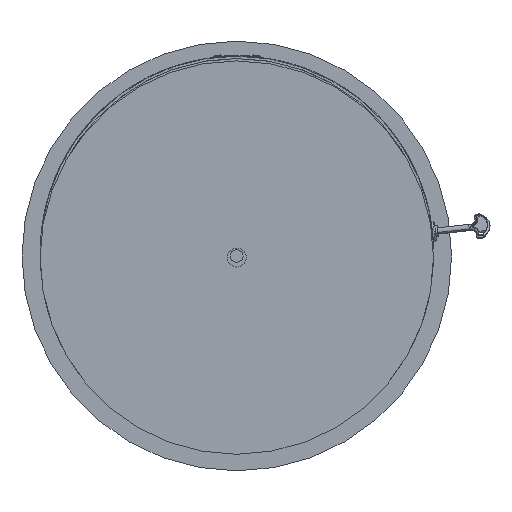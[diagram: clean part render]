
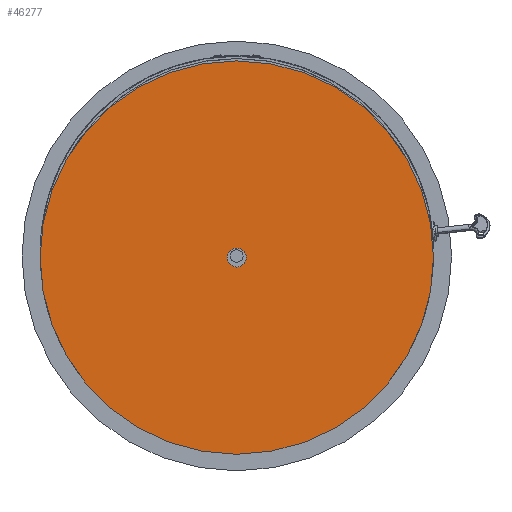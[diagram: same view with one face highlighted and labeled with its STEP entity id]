
A CAD part, front view. The second image highlights one B-rep face of the part: STEP entity #46277.
In plain terms, the highlighted planar face has unit normal (0, -1, 0).
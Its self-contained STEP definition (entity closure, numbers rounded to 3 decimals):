
#614 = EDGE_CURVE ( 'NONE', #169072, #73008, #61596, .T. ) ;
#3027 = CARTESIAN_POINT ( 'NONE',  ( 0., 0., 0. ) ) ;
#10148 = EDGE_CURVE ( 'NONE', #68189, #10973, #28174, .T. ) ;
#10250 = ORIENTED_EDGE ( 'NONE', *, *, #614, .F. ) ;
#10973 = VERTEX_POINT ( 'NONE', #20992 ) ;
#11401 = CARTESIAN_POINT ( 'NONE',  ( 0., 0., 0. ) ) ;
#13307 = DIRECTION ( 'NONE',  ( 0., -1., 0. ) ) ;
#16645 = DIRECTION ( 'NONE',  ( 0., 0., 1. ) ) ;
#20992 = CARTESIAN_POINT ( 'NONE',  ( 0., 0., -12. ) ) ;
#28174 = CIRCLE ( 'NONE', #117669, 12. ) ;
#40448 = DIRECTION ( 'NONE',  ( 0., 0., -1. ) ) ;
#46277 = ADVANCED_FACE ( 'NONE', ( #190299, #86829 ), #187444, .T. ) ;
#51797 = CARTESIAN_POINT ( 'NONE',  ( 0., 0., 12. ) ) ;
#51818 = AXIS2_PLACEMENT_3D ( 'NONE', #11401, #13307, #40448 ) ;
#55923 = DIRECTION ( 'NONE',  ( 0., 0., 1. ) ) ;
#61596 = CIRCLE ( 'NONE', #175777, 250. ) ;
#61679 = EDGE_LOOP ( 'NONE', ( #87391, #115474 ) ) ;
#68189 = VERTEX_POINT ( 'NONE', #51797 ) ;
#71600 = CIRCLE ( 'NONE', #133491, 12. ) ;
#73008 = VERTEX_POINT ( 'NONE', #190717 ) ;
#83978 = DIRECTION ( 'NONE',  ( 0., 1., 0. ) ) ;
#85992 = AXIS2_PLACEMENT_3D ( 'NONE', #3027, #151035, #16645 ) ;
#86722 = DIRECTION ( 'NONE',  ( 0., 0., -1. ) ) ;
#86829 = FACE_OUTER_BOUND ( 'NONE', #123974, .T. ) ;
#87391 = ORIENTED_EDGE ( 'NONE', *, *, #10148, .F. ) ;
#87608 = DIRECTION ( 'NONE',  ( 0., -1., 0. ) ) ;
#90685 = ORIENTED_EDGE ( 'NONE', *, *, #180680, .F. ) ;
#115474 = ORIENTED_EDGE ( 'NONE', *, *, #170532, .F. ) ;
#116643 = CARTESIAN_POINT ( 'NONE',  ( 0., 0., 0. ) ) ;
#117669 = AXIS2_PLACEMENT_3D ( 'NONE', #116643, #87608, #162075 ) ;
#123974 = EDGE_LOOP ( 'NONE', ( #90685, #10250 ) ) ;
#133491 = AXIS2_PLACEMENT_3D ( 'NONE', #144767, #172844, #86722 ) ;
#144767 = CARTESIAN_POINT ( 'NONE',  ( 0., 0., 0. ) ) ;
#146790 = CARTESIAN_POINT ( 'NONE',  ( 0., 0., 0. ) ) ;
#151035 = DIRECTION ( 'NONE',  ( 0., 1., 0. ) ) ;
#157484 = CARTESIAN_POINT ( 'NONE',  ( 0., 0., -250. ) ) ;
#162075 = DIRECTION ( 'NONE',  ( 0., 0., -1. ) ) ;
#164395 = CIRCLE ( 'NONE', #85992, 250. ) ;
#169072 = VERTEX_POINT ( 'NONE', #157484 ) ;
#170532 = EDGE_CURVE ( 'NONE', #10973, #68189, #71600, .T. ) ;
#172844 = DIRECTION ( 'NONE',  ( 0., -1., 0. ) ) ;
#175777 = AXIS2_PLACEMENT_3D ( 'NONE', #146790, #83978, #55923 ) ;
#180680 = EDGE_CURVE ( 'NONE', #73008, #169072, #164395, .T. ) ;
#187444 = PLANE ( 'NONE',  #51818 ) ;
#190299 = FACE_BOUND ( 'NONE', #61679, .T. ) ;
#190717 = CARTESIAN_POINT ( 'NONE',  ( 0., 0., 250. ) ) ;
